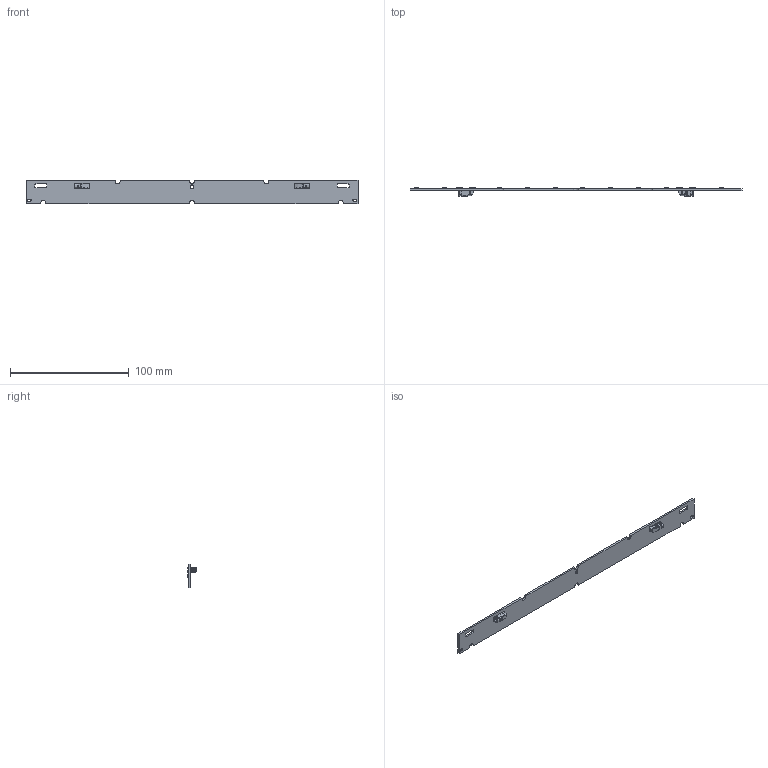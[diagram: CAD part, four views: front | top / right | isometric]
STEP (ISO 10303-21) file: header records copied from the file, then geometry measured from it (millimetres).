
FILE_DESCRIPTION((''),'2;1');
FILE_NAME('ASM_KONE_DIODE_LOGO__ASM','2020-10-26T13:49:36',('msavic'),(''),'CREO PARAMETRIC BY PTC INC, 2016510','CREO PARAMETRIC BY PTC INC, 2016510','');
FILE_SCHEMA(('AUTOMOTIVE_DESIGN { 1 0 10303 214 1 1 1 1 }'));
Products named in the file (12): BAZA_WU-M-669; DIODA_STW8A2PD_ASM; BC_CON_; VSO-LOGO-5MM_3; VSO-LOGO-5MM001_2_1; BUILT-IN_LED_MODULE-5MM004_2; BUILT-IN_LED_MODULE-5MM003_2; BUILT-IN_LED_MODULE-5MM002_2; BUILT-IN_LED_MODULE-5MM001_2; CE-ZEICHEN-6MM_2; CE-ZEICHEN-6MM001_2; ASM_KONE_DIODE_LOGO__ASM
Assembly tree (24 placements, depth 2):
  ASM_KONE_DIODE_LOGO__ASM
    BAZA_WU-M-669
    DIODA_STW8A2PD_ASM  x12
    BC_CON_  x2
    VSO-LOGO-5MM_3
    VSO-LOGO-5MM001_2_1
    BUILT-IN_LED_MODULE-5MM004_2
    BUILT-IN_LED_MODULE-5MM003_2
    BUILT-IN_LED_MODULE-5MM002_2
    BUILT-IN_LED_MODULE-5MM001_2  x2
    CE-ZEICHEN-6MM_2
    CE-ZEICHEN-6MM001_2
Bounding box: 279 x 7.43 x 20 mm (x, y, z)
Volume: 8811.9 mm3; surface area: 13463.7 mm2
Topology: 12 solids, 24 shells, 4308 faces, 12174 edges, 8100 vertices
Faces by surface type: plane 3903, cylinder 355, extrusion 38, bspline 12
Entity records: 123809 total; most frequent: CARTESIAN_POINT 19151, ORIENTED_EDGE 17638, DIRECTION 15388, EDGE_CURVE 8819, VECTOR 8497, LINE 8473, VERTEX_POINT 5872, AXIS2_PLACEMENT_3D 3428
